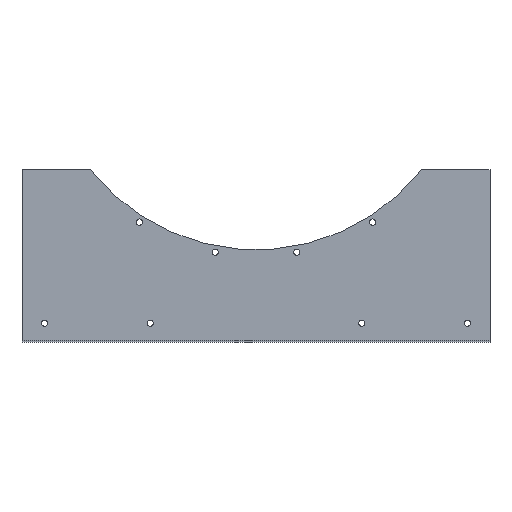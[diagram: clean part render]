
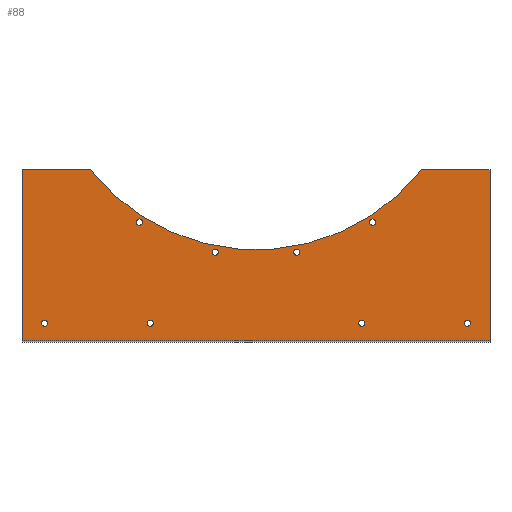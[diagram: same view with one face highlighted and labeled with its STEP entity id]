
A CAD part, top view. The second image highlights one B-rep face of the part: STEP entity #88.
In plain terms, the highlighted planar face has unit normal (0, 0, 1).
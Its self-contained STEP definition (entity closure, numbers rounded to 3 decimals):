
#88=ADVANCED_FACE('',(#184,#185,#186,#187,#188,#189,#190,#191,#192),#193,.T.);
#184=FACE_BOUND('',#285,.T.);
#185=FACE_BOUND('',#286,.T.);
#186=FACE_BOUND('',#287,.T.);
#187=FACE_BOUND('',#288,.T.);
#188=FACE_BOUND('',#289,.T.);
#189=FACE_BOUND('',#290,.T.);
#190=FACE_BOUND('',#291,.T.);
#191=FACE_BOUND('',#292,.T.);
#192=FACE_OUTER_BOUND('',#293,.T.);
#193=PLANE('',#294);
#285=EDGE_LOOP('',(#485,#486));
#286=EDGE_LOOP('',(#487,#488));
#287=EDGE_LOOP('',(#489,#490));
#288=EDGE_LOOP('',(#491,#492));
#289=EDGE_LOOP('',(#493,#494));
#290=EDGE_LOOP('',(#495,#496));
#291=EDGE_LOOP('',(#497,#498));
#292=EDGE_LOOP('',(#499,#500));
#293=EDGE_LOOP('',(#501,#502,#503,#504,#505,#506));
#294=AXIS2_PLACEMENT_3D('',#507,#508,#509);
#485=ORIENTED_EDGE('',*,*,#599,.T.);
#486=ORIENTED_EDGE('',*,*,#604,.T.);
#487=ORIENTED_EDGE('',*,*,#594,.T.);
#488=ORIENTED_EDGE('',*,*,#607,.T.);
#489=ORIENTED_EDGE('',*,*,#589,.T.);
#490=ORIENTED_EDGE('',*,*,#610,.T.);
#491=ORIENTED_EDGE('',*,*,#584,.T.);
#492=ORIENTED_EDGE('',*,*,#613,.T.);
#493=ORIENTED_EDGE('',*,*,#579,.T.);
#494=ORIENTED_EDGE('',*,*,#616,.T.);
#495=ORIENTED_EDGE('',*,*,#574,.T.);
#496=ORIENTED_EDGE('',*,*,#619,.T.);
#497=ORIENTED_EDGE('',*,*,#569,.T.);
#498=ORIENTED_EDGE('',*,*,#622,.T.);
#499=ORIENTED_EDGE('',*,*,#564,.T.);
#500=ORIENTED_EDGE('',*,*,#625,.T.);
#501=ORIENTED_EDGE('',*,*,#627,.T.);
#502=ORIENTED_EDGE('',*,*,#641,.F.);
#503=ORIENTED_EDGE('',*,*,#642,.F.);
#504=ORIENTED_EDGE('',*,*,#643,.F.);
#505=ORIENTED_EDGE('',*,*,#644,.F.);
#506=ORIENTED_EDGE('',*,*,#638,.F.);
#507=CARTESIAN_POINT('',(0.0,4.0,-26.0));
#508=DIRECTION('',(0.0,0.0,1.0));
#509=DIRECTION('',(1.0,0.0,0.0));
#564=EDGE_CURVE('',#664,#661,#665,.T.);
#569=EDGE_CURVE('',#673,#670,#674,.T.);
#574=EDGE_CURVE('',#682,#679,#683,.T.);
#579=EDGE_CURVE('',#691,#688,#692,.T.);
#584=EDGE_CURVE('',#700,#697,#701,.T.);
#589=EDGE_CURVE('',#709,#706,#710,.T.);
#594=EDGE_CURVE('',#718,#715,#719,.T.);
#599=EDGE_CURVE('',#727,#724,#728,.T.);
#604=EDGE_CURVE('',#724,#727,#734,.T.);
#607=EDGE_CURVE('',#715,#718,#737,.T.);
#610=EDGE_CURVE('',#706,#709,#740,.T.);
#613=EDGE_CURVE('',#697,#700,#743,.T.);
#616=EDGE_CURVE('',#688,#691,#746,.T.);
#619=EDGE_CURVE('',#679,#682,#749,.T.);
#622=EDGE_CURVE('',#670,#673,#752,.T.);
#625=EDGE_CURVE('',#661,#664,#755,.T.);
#627=EDGE_CURVE('',#757,#758,#759,.T.);
#638=EDGE_CURVE('',#757,#776,#777,.T.);
#641=EDGE_CURVE('',#780,#758,#781,.T.);
#642=EDGE_CURVE('',#782,#780,#783,.T.);
#643=EDGE_CURVE('',#784,#782,#785,.T.);
#644=EDGE_CURVE('',#776,#784,#786,.T.);
#661=VERTEX_POINT('',#807);
#664=VERTEX_POINT('',#811);
#665=CIRCLE('',#812,6.5);
#670=VERTEX_POINT('',#818);
#673=VERTEX_POINT('',#822);
#674=CIRCLE('',#823,6.5);
#679=VERTEX_POINT('',#829);
#682=VERTEX_POINT('',#833);
#683=CIRCLE('',#834,6.5);
#688=VERTEX_POINT('',#840);
#691=VERTEX_POINT('',#844);
#692=CIRCLE('',#845,6.5);
#697=VERTEX_POINT('',#851);
#700=VERTEX_POINT('',#855);
#701=CIRCLE('',#856,6.5);
#706=VERTEX_POINT('',#862);
#709=VERTEX_POINT('',#866);
#710=CIRCLE('',#867,6.5);
#715=VERTEX_POINT('',#873);
#718=VERTEX_POINT('',#877);
#719=CIRCLE('',#878,6.5);
#724=VERTEX_POINT('',#884);
#727=VERTEX_POINT('',#888);
#728=CIRCLE('',#889,6.5);
#734=CIRCLE('',#896,6.5);
#737=CIRCLE('',#899,6.5);
#740=CIRCLE('',#902,6.5);
#743=CIRCLE('',#905,6.5);
#746=CIRCLE('',#908,6.5);
#749=CIRCLE('',#911,6.5);
#752=CIRCLE('',#914,6.5);
#755=CIRCLE('',#917,6.5);
#757=VERTEX_POINT('',#919);
#758=VERTEX_POINT('',#920);
#759=CIRCLE('',#921,440.0);
#776=VERTEX_POINT('',#945);
#777=LINE('',#946,#947);
#780=VERTEX_POINT('',#951);
#781=LINE('',#952,#953);
#782=VERTEX_POINT('',#954);
#783=LINE('',#955,#956);
#784=VERTEX_POINT('',#957);
#785=LINE('',#958,#959);
#786=LINE('',#960,#961);
#807=CARTESIAN_POINT('',(-433.5,-140.0,-26.0));
#811=CARTESIAN_POINT('',(-446.5,-140.0,-26.0));
#812=AXIS2_PLACEMENT_3D('',#991,#992,#993);
#818=CARTESIAN_POINT('',(446.5,-140.0,-26.0));
#822=CARTESIAN_POINT('',(433.5,-140.0,-26.0));
#823=AXIS2_PLACEMENT_3D('',#999,#1000,#1001);
#829=CARTESIAN_POINT('',(-213.5,-140.0,-26.0));
#833=CARTESIAN_POINT('',(-226.5,-140.0,-26.0));
#834=AXIS2_PLACEMENT_3D('',#1007,#1008,#1009);
#840=CARTESIAN_POINT('',(226.5,-140.0,-26.0));
#844=CARTESIAN_POINT('',(213.5,-140.0,-26.0));
#845=AXIS2_PLACEMENT_3D('',#1015,#1016,#1017);
#851=CARTESIAN_POINT('',(91.269,9.242,-26.0));
#855=CARTESIAN_POINT('',(78.499,6.806,-26.0));
#856=AXIS2_PLACEMENT_3D('',#1023,#1024,#1025);
#862=CARTESIAN_POINT('',(-78.499,6.806,-26.0));
#866=CARTESIAN_POINT('',(-91.269,9.242,-26.0));
#867=AXIS2_PLACEMENT_3D('',#1031,#1032,#1033);
#873=CARTESIAN_POINT('',(-237.241,67.037,-26.0));
#877=CARTESIAN_POINT('',(-248.218,74.002,-26.0));
#878=AXIS2_PLACEMENT_3D('',#1039,#1040,#1041);
#884=CARTESIAN_POINT('',(248.218,74.002,-26.0));
#888=CARTESIAN_POINT('',(237.241,67.037,-26.0));
#889=AXIS2_PLACEMENT_3D('',#1047,#1048,#1049);
#896=AXIS2_PLACEMENT_3D('',#1057,#1058,#1059);
#899=AXIS2_PLACEMENT_3D('',#1063,#1064,#1065);
#902=AXIS2_PLACEMENT_3D('',#1069,#1070,#1071);
#905=AXIS2_PLACEMENT_3D('',#1075,#1076,#1077);
#908=AXIS2_PLACEMENT_3D('',#1081,#1082,#1083);
#911=AXIS2_PLACEMENT_3D('',#1087,#1088,#1089);
#914=AXIS2_PLACEMENT_3D('',#1093,#1094,#1095);
#917=AXIS2_PLACEMENT_3D('',#1099,#1100,#1101);
#919=CARTESIAN_POINT('',(345.067,180.0,-26.0));
#920=CARTESIAN_POINT('',(-345.067,180.0,-26.0));
#921=AXIS2_PLACEMENT_3D('',#1102,#1103,#1104);
#945=CARTESIAN_POINT('',(487.0,180.0,-26.0));
#946=CARTESIAN_POINT('',(0.0,180.0,-26.0));
#947=VECTOR('',#1115,1.0);
#951=CARTESIAN_POINT('',(-487.0,180.0,-26.0));
#952=CARTESIAN_POINT('',(0.0,180.0,-26.0));
#953=VECTOR('',#1117,1.0);
#954=CARTESIAN_POINT('',(-487.0,-176.0,-26.0));
#955=CARTESIAN_POINT('',(-487.0,2.0,-26.0));
#956=VECTOR('',#1118,1.0);
#957=CARTESIAN_POINT('',(487.0,-176.0,-26.0));
#958=CARTESIAN_POINT('',(0.0,-176.0,-26.0));
#959=VECTOR('',#1119,1.0);
#960=CARTESIAN_POINT('',(487.0,2.0,-26.0));
#961=VECTOR('',#1120,1.0);
#991=CARTESIAN_POINT('',(-440.0,-140.0,-26.0));
#992=DIRECTION('',(0.0,0.0,-1.0));
#993=DIRECTION('',(1.0,0.0,0.0));
#999=CARTESIAN_POINT('',(440.0,-140.0,-26.0));
#1000=DIRECTION('',(0.0,0.0,-1.0));
#1001=DIRECTION('',(1.0,0.0,0.0));
#1007=CARTESIAN_POINT('',(-220.0,-140.0,-26.0));
#1008=DIRECTION('',(0.0,0.0,-1.0));
#1009=DIRECTION('',(1.0,0.0,0.0));
#1015=CARTESIAN_POINT('',(220.0,-140.0,-26.0));
#1016=DIRECTION('',(0.0,0.0,-1.0));
#1017=DIRECTION('',(1.0,0.0,0.0));
#1023=CARTESIAN_POINT('',(84.884,8.024,-26.0));
#1024=DIRECTION('',(0.0,0.0,-1.0));
#1025=DIRECTION('',(0.982,0.187,0.0));
#1031=CARTESIAN_POINT('',(-84.884,8.024,-26.0));
#1032=DIRECTION('',(0.0,-0.0,-1.0));
#1033=DIRECTION('',(0.982,-0.187,0.0));
#1039=CARTESIAN_POINT('',(-242.73,70.519,-26.0));
#1040=DIRECTION('',(0.0,-0.0,-1.0));
#1041=DIRECTION('',(0.844,-0.536,0.0));
#1047=CARTESIAN_POINT('',(242.73,70.519,-26.0));
#1048=DIRECTION('',(0.0,0.0,-1.0));
#1049=DIRECTION('',(0.844,0.536,0.0));
#1057=CARTESIAN_POINT('',(242.73,70.519,-26.0));
#1058=DIRECTION('',(0.0,0.0,-1.0));
#1059=DIRECTION('',(0.844,0.536,0.0));
#1063=CARTESIAN_POINT('',(-242.73,70.519,-26.0));
#1064=DIRECTION('',(0.0,-0.0,-1.0));
#1065=DIRECTION('',(0.844,-0.536,0.0));
#1069=CARTESIAN_POINT('',(-84.884,8.024,-26.0));
#1070=DIRECTION('',(0.0,-0.0,-1.0));
#1071=DIRECTION('',(0.982,-0.187,0.0));
#1075=CARTESIAN_POINT('',(84.884,8.024,-26.0));
#1076=DIRECTION('',(0.0,0.0,-1.0));
#1077=DIRECTION('',(0.982,0.187,0.0));
#1081=CARTESIAN_POINT('',(220.0,-140.0,-26.0));
#1082=DIRECTION('',(0.0,0.0,-1.0));
#1083=DIRECTION('',(1.0,0.0,0.0));
#1087=CARTESIAN_POINT('',(-220.0,-140.0,-26.0));
#1088=DIRECTION('',(0.0,0.0,-1.0));
#1089=DIRECTION('',(1.0,0.0,0.0));
#1093=CARTESIAN_POINT('',(440.0,-140.0,-26.0));
#1094=DIRECTION('',(0.0,0.0,-1.0));
#1095=DIRECTION('',(1.0,0.0,0.0));
#1099=CARTESIAN_POINT('',(-440.0,-140.0,-26.0));
#1100=DIRECTION('',(0.0,0.0,-1.0));
#1101=DIRECTION('',(1.0,0.0,0.0));
#1102=CARTESIAN_POINT('',(0.0,453.0,-26.0));
#1103=DIRECTION('',(0.0,0.0,-1.0));
#1104=DIRECTION('',(1.0,0.0,0.0));
#1115=DIRECTION('',(1.0,0.0,-0.0));
#1117=DIRECTION('',(1.0,0.0,-0.0));
#1118=DIRECTION('',(0.0,1.0,0.0));
#1119=DIRECTION('',(-1.0,0.0,0.0));
#1120=DIRECTION('',(0.0,-1.0,0.0));
